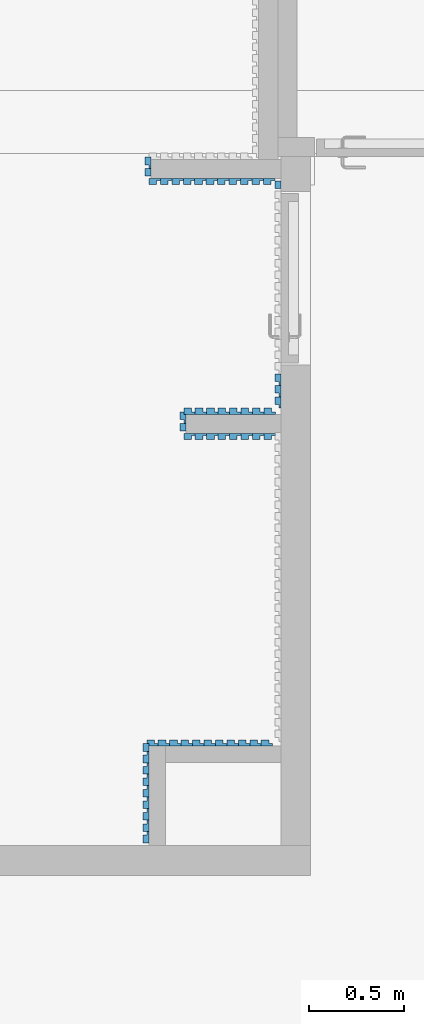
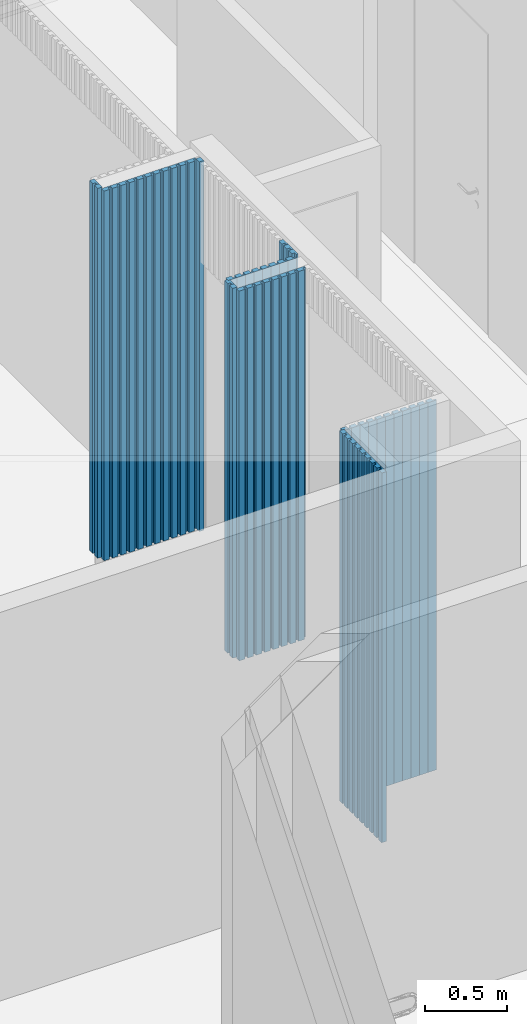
# One storey, part 11 of 37: 55 plates, 8 elements without a shape of their own.
"""IFC2X3 building model written with IfcOpenShell, lengths in millimetres."""

from ifc_helpers import new_model, entity, si_unit, converted_unit, derived_unit, direction, frame, frame_2d, origin, origin_with_axes, place, context, subcontext, project, spatial, rectangle, extrude, source, transform, mapped, material, material_list, type_object, element, aggregate, save


model = new_model("IFC2X3")

# Units and contexts
model_context = context("Model", 3, precision=0.01, world=frame((0.0, 4.29681676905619e-09, 0.0)), true_north=direction((4.01073788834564e-13, 1.0)))
plan_context = context("Plan", 3, precision=0.01, world=frame((0.0, 4.29681676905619e-09, 0.0)), true_north=direction((4.01073788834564e-13, 1.0)))
body_context = subcontext(model_context, "Body", "Model", "MODEL_VIEW")
ifc_project = project(units=[converted_unit("PLANEANGLEUNIT", "DEGREE", entity("IfcPositiveLengthMeasure", 0.0174532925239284), si_unit("PLANEANGLEUNIT", "RADIAN"), dimensions=[0, 0, 0, 0, 0, 0, 0]), si_unit("AREAUNIT", "SQUARE_METRE"), si_unit("LENGTHUNIT", "METRE", prefix="MILLI"), si_unit("MASSUNIT", "GRAM", prefix="KILO"), si_unit("POWERUNIT", "WATT"), si_unit("PRESSUREUNIT", "PASCAL"), si_unit("FORCEUNIT", "NEWTON", prefix="KILO"), si_unit("ELECTRICVOLTAGEUNIT", "VOLT"), si_unit("ELECTRICCURRENTUNIT", "AMPERE"), si_unit("THERMODYNAMICTEMPERATUREUNIT", "DEGREE_CELSIUS"), si_unit("TIMEUNIT", "SECOND"), si_unit("VOLUMEUNIT", "CUBIC_METRE"), derived_unit("LINEARVELOCITYUNIT", [(si_unit("LENGTHUNIT", "METRE"), 1), (si_unit("TIMEUNIT", "SECOND"), -1)]), derived_unit("VOLUMETRICFLOWRATEUNIT", [(si_unit("VOLUMEUNIT", "CUBIC_METRE"), 1), (si_unit("TIMEUNIT", "SECOND"), -1)]), derived_unit("THERMALTRANSMITTANCEUNIT", [(si_unit("POWERUNIT", "WATT"), 1), (si_unit("THERMODYNAMICTEMPERATUREUNIT", "KELVIN"), -1), (si_unit("AREAUNIT", "SQUARE_METRE"), -1)]), derived_unit("SOUNDPRESSUREUNIT", [(si_unit("PRESSUREUNIT", "PASCAL"), 1)])], contexts=[model_context, plan_context])

# Site, building, storey
site_placement = place(None, origin_with_axes())
site = spatial("IfcSite", under=ifc_project, at=site_placement, Name="ENGM", CompositionType="ELEMENT")
building_placement = place(site_placement, origin_with_axes())
building = spatial("IfcBuilding", under=site, at=building_placement, Name="TS", CompositionType="ELEMENT")
storey_placement = place(building_placement, frame((0.0, 0.0, 210900.0), z_axis=(0.0, 0.0, 1.0), x_axis=(1.0, 0.0, 0.0)))
storey = spatial("IfcBuildingStorey", under=building, at=storey_placement, Name="Nivå F", CompositionType="ELEMENT", Elevation=210900.0)

# Curtain wall, plate
curtain_wall_type = type_object("IfcCurtainWallType", PredefinedType="NOTDEFINED")
curtain_wall_1_placement = place(storey_placement, frame((0.0, 0.0, -210900.0), z_axis=(0.0, 0.0, 1.0), x_axis=(1.0, 0.0, 0.0)))
curtain_wall_1 = element("IfcCurtainWall", 1, at=curtain_wall_1_placement, inside=storey, type_object=curtain_wall_type)
ifc_material_1 = material(Name="MDF plate svart")
ifc_material_2 = material(Name="Wood")
ifc_material_list = material_list([ifc_material_1, ifc_material_2])
plate_type_1 = type_object("IfcPlateType", Name="Spiler_40 x 20:Spiler_40 x 20", PredefinedType="CURTAIN_PANEL", material=ifc_material_list)
shared_shape_1 = source(origin(), body_context, "Body", "SweptSolid", [
    extrude(rectangle(XDim=60.0, YDim=12.0, at=frame_2d((3.5527136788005e-15, 1.33226762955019e-15), x_axis=(1.0, 0.0))), frame((-10.0, 6.0, 0.0), z_axis=(0.0, 0.0, 1.0), x_axis=(-1.0, 0.0, 0.0)), (0.0, 0.0, 1.0), 2760.0),
    extrude(rectangle(XDim=20.0000000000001, YDim=39.9999999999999, at=frame_2d((0.0, 8.88178419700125e-15), x_axis=(1.0, 0.0))), frame((0.0, 22.0, 0.0), z_axis=(0.0, 0.0, 1.0), x_axis=(0.0, 1.0, 0.0)), (0.0, 0.0, 1.0), 2760.0),
])
plate_1_placement = place(curtain_wall_1_placement, frame((532901.873960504, 448052.846287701, 211000.0), z_axis=(0.0, 0.0, 1.0), x_axis=(0.0, 1.0, 0.0)))
plate_1 = element("IfcPlate", 2, at=plate_1_placement, type_object=plate_type_1, material=ifc_material_list, Name="Spiler_40 x 20:Spiler_40 x 20", ObjectType="Spiler_40 x 20:Spiler_40 x 20", context=body_context, shape_type="MappedRepresentation", body=[
    mapped(shared_shape_1, transform((0.0, 0.0, 0.0), scale=1.0)),
])

# Curtain wall, plates
curtain_wall_2_placement = place(storey_placement, frame((0.0, 0.0, -210900.0), z_axis=(0.0, 0.0, 1.0), x_axis=(1.0, 0.0, 0.0)))
curtain_wall_2 = element("IfcCurtainWall", 3, at=curtain_wall_2_placement, inside=storey, type_object=curtain_wall_type)
plate_type_2 = type_object("IfcPlateType", Name="Spiler_40 x 20:Spiler_40 x 20", PredefinedType="CURTAIN_PANEL", material=ifc_material_list)
plate_2_placement = place(curtain_wall_2_placement, frame((533509.873960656, 447961.346287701, 211000.0), z_axis=(0.0, 0.0, 1.0), x_axis=(-1.0, 0.0, 0.0)))
plate_2 = element("IfcPlate", 4, at=plate_2_placement, type_object=plate_type_2, material=ifc_material_list, Name="Spiler_40 x 20:Spiler_40 x 20", ObjectType="Spiler_40 x 20:Spiler_40 x 20", context=body_context, shape_type="MappedRepresentation", body=[
    mapped(shared_shape_1, transform((0.0, 0.0, 0.0), scale=1.0)),
])
plate_type_3 = type_object("IfcPlateType", Name="Spiler_40 x 20:Spiler_40 x 20", PredefinedType="CURTAIN_PANEL", material=ifc_material_list)
plate_3_placement = place(curtain_wall_2_placement, frame((533449.873960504, 447961.346287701, 211000.0), z_axis=(0.0, 0.0, 1.0), x_axis=(-1.0, 0.0, 0.0)))
plate_3 = element("IfcPlate", 5, at=plate_3_placement, type_object=plate_type_3, material=ifc_material_list, Name="Spiler_40 x 20:Spiler_40 x 20", ObjectType="Spiler_40 x 20:Spiler_40 x 20", context=body_context, shape_type="MappedRepresentation", body=[
    mapped(shared_shape_1, transform((0.0, 0.0, 0.0), scale=1.0)),
])
plate_4_placement = place(curtain_wall_2_placement, frame((533389.873960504, 447961.346287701, 211000.0), z_axis=(0.0, 0.0, 1.0), x_axis=(-1.0, 0.0, 0.0)))
plate_4 = element("IfcPlate", 6, at=plate_4_placement, type_object=plate_type_3, material=ifc_material_list, Name="Spiler_40 x 20:Spiler_40 x 20", ObjectType="Spiler_40 x 20:Spiler_40 x 20", context=body_context, shape_type="MappedRepresentation", body=[
    mapped(shared_shape_1, transform((0.0, 0.0, 0.0), scale=1.0)),
])
plate_5_placement = place(curtain_wall_2_placement, frame((533329.873960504, 447961.346287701, 211000.0), z_axis=(0.0, 0.0, 1.0), x_axis=(-1.0, 0.0, 0.0)))
plate_5 = element("IfcPlate", 7, at=plate_5_placement, type_object=plate_type_3, material=ifc_material_list, Name="Spiler_40 x 20:Spiler_40 x 20", ObjectType="Spiler_40 x 20:Spiler_40 x 20", context=body_context, shape_type="MappedRepresentation", body=[
    mapped(shared_shape_1, transform((0.0, 0.0, 0.0), scale=1.0)),
])
plate_6_placement = place(curtain_wall_2_placement, frame((533269.873960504, 447961.346287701, 211000.0), z_axis=(0.0, 0.0, 1.0), x_axis=(-1.0, 0.0, 0.0)))
plate_6 = element("IfcPlate", 8, at=plate_6_placement, type_object=plate_type_3, material=ifc_material_list, Name="Spiler_40 x 20:Spiler_40 x 20", ObjectType="Spiler_40 x 20:Spiler_40 x 20", context=body_context, shape_type="MappedRepresentation", body=[
    mapped(shared_shape_1, transform((0.0, 0.0, 0.0), scale=1.0)),
])
plate_7_placement = place(curtain_wall_2_placement, frame((533209.873960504, 447961.346287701, 211000.0), z_axis=(0.0, 0.0, 1.0), x_axis=(-1.0, 0.0, 0.0)))
plate_7 = element("IfcPlate", 9, at=plate_7_placement, type_object=plate_type_3, material=ifc_material_list, Name="Spiler_40 x 20:Spiler_40 x 20", ObjectType="Spiler_40 x 20:Spiler_40 x 20", context=body_context, shape_type="MappedRepresentation", body=[
    mapped(shared_shape_1, transform((0.0, 0.0, 0.0), scale=1.0)),
])
plate_8_placement = place(curtain_wall_2_placement, frame((533149.873960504, 447961.346287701, 211000.0), z_axis=(0.0, 0.0, 1.0), x_axis=(-1.0, 0.0, 0.0)))
plate_8 = element("IfcPlate", 10, at=plate_8_placement, type_object=plate_type_3, material=ifc_material_list, Name="Spiler_40 x 20:Spiler_40 x 20", ObjectType="Spiler_40 x 20:Spiler_40 x 20", context=body_context, shape_type="MappedRepresentation", body=[
    mapped(shared_shape_1, transform((0.0, 0.0, 0.0), scale=1.0)),
])
plate_9_placement = place(curtain_wall_2_placement, frame((533089.873960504, 447961.346287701, 211000.0), z_axis=(0.0, 0.0, 1.0), x_axis=(-1.0, 0.0, 0.0)))
plate_9 = element("IfcPlate", 11, at=plate_9_placement, type_object=plate_type_3, material=ifc_material_list, Name="Spiler_40 x 20:Spiler_40 x 20", ObjectType="Spiler_40 x 20:Spiler_40 x 20", context=body_context, shape_type="MappedRepresentation", body=[
    mapped(shared_shape_1, transform((0.0, 0.0, 0.0), scale=1.0)),
])
plate_10_placement = place(curtain_wall_2_placement, frame((533029.873960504, 447961.346287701, 211000.0), z_axis=(0.0, 0.0, 1.0), x_axis=(-1.0, 0.0, 0.0)))
plate_10 = element("IfcPlate", 12, at=plate_10_placement, type_object=plate_type_3, material=ifc_material_list, Name="Spiler_40 x 20:Spiler_40 x 20", ObjectType="Spiler_40 x 20:Spiler_40 x 20", context=body_context, shape_type="MappedRepresentation", body=[
    mapped(shared_shape_1, transform((0.0, 0.0, 0.0), scale=1.0)),
])
plate_11_placement = place(curtain_wall_2_placement, frame((532969.873960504, 447961.346287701, 211000.0), z_axis=(0.0, 0.0, 1.0), x_axis=(-1.0, 0.0, 0.0)))
plate_11 = element("IfcPlate", 13, at=plate_11_placement, type_object=plate_type_3, material=ifc_material_list, Name="Spiler_40 x 20:Spiler_40 x 20", ObjectType="Spiler_40 x 20:Spiler_40 x 20", context=body_context, shape_type="MappedRepresentation", body=[
    mapped(shared_shape_1, transform((0.0, 0.0, 0.0), scale=1.0)),
])
plate_12_placement = place(curtain_wall_2_placement, frame((532909.873960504, 447961.346287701, 211000.0), z_axis=(0.0, 0.0, 1.0), x_axis=(-1.0, 0.0, 0.0)))
plate_12 = element("IfcPlate", 14, at=plate_12_placement, type_object=plate_type_3, material=ifc_material_list, Name="Spiler_40 x 20:Spiler_40 x 20", ObjectType="Spiler_40 x 20:Spiler_40 x 20", context=body_context, shape_type="MappedRepresentation", body=[
    mapped(shared_shape_1, transform((0.0, 0.0, 0.0), scale=1.0)),
])
aggregate(curtain_wall_2, [plate_2, plate_3, plate_4, plate_5, plate_6, plate_7, plate_8, plate_9, plate_10, plate_11, plate_12])

curtain_wall_3_placement = place(storey_placement, frame((0.0, 0.0, -210900.0), z_axis=(0.0, 0.0, 1.0), x_axis=(1.0, 0.0, 0.0)))
curtain_wall_3 = element("IfcCurtainWall", 15, at=curtain_wall_3_placement, inside=storey, type_object=curtain_wall_type)
plate_13_placement = place(curtain_wall_3_placement, frame((533512.53749998, 446624.499999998, 211000.0), z_axis=(0.0, 0.0, 1.0), x_axis=(-1.0, 0.0, 0.0)))
plate_13 = element("IfcPlate", 16, at=plate_13_placement, type_object=plate_type_2, material=ifc_material_list, Name="Spiler_40 x 20:Spiler_40 x 20", ObjectType="Spiler_40 x 20:Spiler_40 x 20", context=body_context, shape_type="MappedRepresentation", body=[
    mapped(shared_shape_1, transform((0.0, 0.0, 0.0), scale=1.0)),
])
plate_14_placement = place(curtain_wall_3_placement, frame((533452.537499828, 446624.499999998, 211000.0), z_axis=(0.0, 0.0, 1.0), x_axis=(-1.0, 0.0, 0.0)))
plate_14 = element("IfcPlate", 17, at=plate_14_placement, type_object=plate_type_3, material=ifc_material_list, Name="Spiler_40 x 20:Spiler_40 x 20", ObjectType="Spiler_40 x 20:Spiler_40 x 20", context=body_context, shape_type="MappedRepresentation", body=[
    mapped(shared_shape_1, transform((0.0, 0.0, 0.0), scale=1.0)),
])
plate_15_placement = place(curtain_wall_3_placement, frame((533392.537499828, 446624.499999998, 211000.0), z_axis=(0.0, 0.0, 1.0), x_axis=(-1.0, 0.0, 0.0)))
plate_15 = element("IfcPlate", 18, at=plate_15_placement, type_object=plate_type_3, material=ifc_material_list, Name="Spiler_40 x 20:Spiler_40 x 20", ObjectType="Spiler_40 x 20:Spiler_40 x 20", context=body_context, shape_type="MappedRepresentation", body=[
    mapped(shared_shape_1, transform((0.0, 0.0, 0.0), scale=1.0)),
])
plate_16_placement = place(curtain_wall_3_placement, frame((533332.537499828, 446624.499999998, 211000.0), z_axis=(0.0, 0.0, 1.0), x_axis=(-1.0, 0.0, 0.0)))
plate_16 = element("IfcPlate", 19, at=plate_16_placement, type_object=plate_type_3, material=ifc_material_list, Name="Spiler_40 x 20:Spiler_40 x 20", ObjectType="Spiler_40 x 20:Spiler_40 x 20", context=body_context, shape_type="MappedRepresentation", body=[
    mapped(shared_shape_1, transform((0.0, 0.0, 0.0), scale=1.0)),
])
plate_17_placement = place(curtain_wall_3_placement, frame((533272.537499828, 446624.499999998, 211000.0), z_axis=(0.0, 0.0, 1.0), x_axis=(-1.0, 0.0, 0.0)))
plate_17 = element("IfcPlate", 20, at=plate_17_placement, type_object=plate_type_3, material=ifc_material_list, Name="Spiler_40 x 20:Spiler_40 x 20", ObjectType="Spiler_40 x 20:Spiler_40 x 20", context=body_context, shape_type="MappedRepresentation", body=[
    mapped(shared_shape_1, transform((0.0, 0.0, 0.0), scale=1.0)),
])
plate_18_placement = place(curtain_wall_3_placement, frame((533212.537499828, 446624.499999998, 211000.0), z_axis=(0.0, 0.0, 1.0), x_axis=(-1.0, 0.0, 0.0)))
plate_18 = element("IfcPlate", 21, at=plate_18_placement, type_object=plate_type_3, material=ifc_material_list, Name="Spiler_40 x 20:Spiler_40 x 20", ObjectType="Spiler_40 x 20:Spiler_40 x 20", context=body_context, shape_type="MappedRepresentation", body=[
    mapped(shared_shape_1, transform((0.0, 0.0, 0.0), scale=1.0)),
])
plate_19_placement = place(curtain_wall_3_placement, frame((533152.537499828, 446624.499999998, 211000.0), z_axis=(0.0, 0.0, 1.0), x_axis=(-1.0, 0.0, 0.0)))
plate_19 = element("IfcPlate", 22, at=plate_19_placement, type_object=plate_type_3, material=ifc_material_list, Name="Spiler_40 x 20:Spiler_40 x 20", ObjectType="Spiler_40 x 20:Spiler_40 x 20", context=body_context, shape_type="MappedRepresentation", body=[
    mapped(shared_shape_1, transform((0.0, 0.0, 0.0), scale=1.0)),
])
plate_20_placement = place(curtain_wall_3_placement, frame((533092.53749998, 446624.499999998, 211000.0), z_axis=(0.0, 0.0, 1.0), x_axis=(-1.0, 0.0, 0.0)))
plate_20 = element("IfcPlate", 23, at=plate_20_placement, type_object=plate_type_1, material=ifc_material_list, Name="Spiler_40 x 20:Spiler_40 x 20", ObjectType="Spiler_40 x 20:Spiler_40 x 20", context=body_context, shape_type="MappedRepresentation", body=[
    mapped(shared_shape_1, transform((0.0, 0.0, 0.0), scale=1.0)),
])
aggregate(curtain_wall_3, [plate_13, plate_14, plate_15, plate_16, plate_17, plate_18, plate_19, plate_20])

# Curtain wall, plate
curtain_wall_4_placement = place(storey_placement, frame((0.0, 0.0, -210900.0), z_axis=(0.0, 0.0, 1.0), x_axis=(1.0, 0.0, 0.0)))
curtain_wall_4 = element("IfcCurtainWall", 24, at=curtain_wall_4_placement, inside=storey, type_object=curtain_wall_type)
plate_21_placement = place(curtain_wall_4_placement, frame((533084.53749998, 446717.499999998, 211000.0), z_axis=(0.0, 0.0, 1.0), x_axis=(0.0, 1.0, 0.0)))
plate_21 = element("IfcPlate", 25, at=plate_21_placement, type_object=plate_type_1, material=ifc_material_list, Name="Spiler_40 x 20:Spiler_40 x 20", ObjectType="Spiler_40 x 20:Spiler_40 x 20", context=body_context, shape_type="MappedRepresentation", body=[
    mapped(shared_shape_1, transform((0.0, 0.0, 0.0), scale=1.0)),
])

# Curtain wall, plates
curtain_wall_5_placement = place(storey_placement, frame((0.0, 0.0, -210900.0), z_axis=(0.0, 0.0, 1.0), x_axis=(1.0, 0.0, 0.0)))
curtain_wall_5 = element("IfcCurtainWall", 26, at=curtain_wall_5_placement, inside=storey, type_object=curtain_wall_type)
plate_22_placement = place(curtain_wall_5_placement, frame((533582.537499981, 446796.499999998, 211000.0), z_axis=(0.0, 0.0, 1.0), x_axis=(0.0, 1.0, 0.0)))
plate_22 = element("IfcPlate", 27, at=plate_22_placement, type_object=plate_type_2, material=ifc_material_list, Name="Spiler_40 x 20:Spiler_40 x 20", ObjectType="Spiler_40 x 20:Spiler_40 x 20", context=body_context, shape_type="MappedRepresentation", body=[
    mapped(shared_shape_1, transform((0.0, 0.0, 0.0), scale=1.0)),
])
plate_23_placement = place(curtain_wall_5_placement, frame((533582.537499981, 446856.50000015, 211000.0), z_axis=(0.0, 0.0, 1.0), x_axis=(0.0, 1.0, 0.0)))
plate_23 = element("IfcPlate", 28, at=plate_23_placement, type_object=plate_type_3, material=ifc_material_list, Name="Spiler_40 x 20:Spiler_40 x 20", ObjectType="Spiler_40 x 20:Spiler_40 x 20", context=body_context, shape_type="MappedRepresentation", body=[
    mapped(shared_shape_1, transform((0.0, 0.0, 0.0), scale=1.0)),
])
plate_type_4 = type_object("IfcPlateType", Name="Spiler_40 x 20:Spiler_40 x 20", PredefinedType="CURTAIN_PANEL", material=ifc_material_list)
plate_24_placement = place(curtain_wall_5_placement, frame((533582.537499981, 446916.500000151, 211000.0), z_axis=(0.0, 0.0, 1.0), x_axis=(0.0, 1.0, 0.0)))
plate_24 = element("IfcPlate", 29, at=plate_24_placement, type_object=plate_type_4, material=ifc_material_list, Name="Spiler_40 x 20:Spiler_40 x 20", ObjectType="Spiler_40 x 20:Spiler_40 x 20", context=body_context, shape_type="MappedRepresentation", body=[
    mapped(shared_shape_1, transform((0.0, 0.0, 0.0), scale=1.0)),
])

curtain_wall_6_placement = place(storey_placement, frame((0.0, 0.0, -210900.0), z_axis=(0.0, 0.0, 1.0), x_axis=(1.0, 0.0, 0.0)))
curtain_wall_6 = element("IfcCurtainWall", 30, at=curtain_wall_6_placement, inside=storey, type_object=curtain_wall_type)
plate_type_5 = type_object("IfcPlateType", Name="Spiler_40 x 20:Spiler_40 x 20", PredefinedType="CURTAIN_PANEL", material=ifc_material_list)
shared_shape_2 = source(origin(), body_context, "Body", "SweptSolid", [
    extrude(rectangle(XDim=12.0, YDim=60.0, at=frame_2d((-2.22044604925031e-15, 3.5527136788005e-15), x_axis=(1.0, 0.0))), frame((-10.0, -6.0, 0.0), z_axis=(0.0, 0.0, 1.0), x_axis=(0.0, 1.0, 0.0)), (0.0, 0.0, 1.0), 2760.0),
    extrude(rectangle(XDim=39.9999999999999, YDim=20.0000000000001, at=frame_2d((8.88178419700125e-15, 0.0), x_axis=(1.0, 0.0))), frame((0.0, -22.0, 0.0), z_axis=(0.0, 0.0, 1.0), x_axis=(-1.0, 0.0, 0.0)), (0.0, 0.0, 1.0), 2760.0),
])
plate_25_placement = place(curtain_wall_6_placement, frame((533498.518749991, 444985.500000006, 211000.0), z_axis=(0.0, 0.0, 1.0), x_axis=(-1.0, 0.0, 0.0)))
plate_25 = element("IfcPlate", 31, at=plate_25_placement, type_object=plate_type_5, material=ifc_material_list, Name="Spiler_40 x 20:Spiler_40 x 20", ObjectType="Spiler_40 x 20:Spiler_40 x 20", context=body_context, shape_type="MappedRepresentation", body=[
    mapped(shared_shape_2, transform((0.0, 0.0, 0.0), scale=1.0)),
])
plate_type_6 = type_object("IfcPlateType", Name="Spiler_40 x 20:Spiler_40 x 20", PredefinedType="CURTAIN_PANEL", material=ifc_material_list)
plate_26_placement = place(curtain_wall_6_placement, frame((533438.518749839, 444985.500000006, 211000.0), z_axis=(0.0, 0.0, 1.0), x_axis=(-1.0, 0.0, 0.0)))
plate_26 = element("IfcPlate", 32, at=plate_26_placement, type_object=plate_type_6, material=ifc_material_list, Name="Spiler_40 x 20:Spiler_40 x 20", ObjectType="Spiler_40 x 20:Spiler_40 x 20", context=body_context, shape_type="MappedRepresentation", body=[
    mapped(shared_shape_2, transform((0.0, 0.0, 0.0), scale=1.0)),
])
plate_27_placement = place(curtain_wall_6_placement, frame((533378.518749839, 444985.500000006, 211000.0), z_axis=(0.0, 0.0, 1.0), x_axis=(-1.0, 0.0, 0.0)))
plate_27 = element("IfcPlate", 33, at=plate_27_placement, type_object=plate_type_6, material=ifc_material_list, Name="Spiler_40 x 20:Spiler_40 x 20", ObjectType="Spiler_40 x 20:Spiler_40 x 20", context=body_context, shape_type="MappedRepresentation", body=[
    mapped(shared_shape_2, transform((0.0, 0.0, 0.0), scale=1.0)),
])
plate_28_placement = place(curtain_wall_6_placement, frame((533318.518749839, 444985.500000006, 211000.0), z_axis=(0.0, 0.0, 1.0), x_axis=(-1.0, 0.0, 0.0)))
plate_28 = element("IfcPlate", 34, at=plate_28_placement, type_object=plate_type_6, material=ifc_material_list, Name="Spiler_40 x 20:Spiler_40 x 20", ObjectType="Spiler_40 x 20:Spiler_40 x 20", context=body_context, shape_type="MappedRepresentation", body=[
    mapped(shared_shape_2, transform((0.0, 0.0, 0.0), scale=1.0)),
])
plate_29_placement = place(curtain_wall_6_placement, frame((533258.518749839, 444985.500000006, 211000.0), z_axis=(0.0, 0.0, 1.0), x_axis=(-1.0, 0.0, 0.0)))
plate_29 = element("IfcPlate", 35, at=plate_29_placement, type_object=plate_type_6, material=ifc_material_list, Name="Spiler_40 x 20:Spiler_40 x 20", ObjectType="Spiler_40 x 20:Spiler_40 x 20", context=body_context, shape_type="MappedRepresentation", body=[
    mapped(shared_shape_2, transform((0.0, 0.0, 0.0), scale=1.0)),
])
plate_30_placement = place(curtain_wall_6_placement, frame((533198.518749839, 444985.500000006, 211000.0), z_axis=(0.0, 0.0, 1.0), x_axis=(-1.0, 0.0, 0.0)))
plate_30 = element("IfcPlate", 36, at=plate_30_placement, type_object=plate_type_6, material=ifc_material_list, Name="Spiler_40 x 20:Spiler_40 x 20", ObjectType="Spiler_40 x 20:Spiler_40 x 20", context=body_context, shape_type="MappedRepresentation", body=[
    mapped(shared_shape_2, transform((0.0, 0.0, 0.0), scale=1.0)),
])
plate_31_placement = place(curtain_wall_6_placement, frame((533138.518749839, 444985.500000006, 211000.0), z_axis=(0.0, 0.0, 1.0), x_axis=(-1.0, 0.0, 0.0)))
plate_31 = element("IfcPlate", 37, at=plate_31_placement, type_object=plate_type_6, material=ifc_material_list, Name="Spiler_40 x 20:Spiler_40 x 20", ObjectType="Spiler_40 x 20:Spiler_40 x 20", context=body_context, shape_type="MappedRepresentation", body=[
    mapped(shared_shape_2, transform((0.0, 0.0, 0.0), scale=1.0)),
])
plate_32_placement = place(curtain_wall_6_placement, frame((533078.518749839, 444985.500000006, 211000.0), z_axis=(0.0, 0.0, 1.0), x_axis=(-1.0, 0.0, 0.0)))
plate_32 = element("IfcPlate", 38, at=plate_32_placement, type_object=plate_type_6, material=ifc_material_list, Name="Spiler_40 x 20:Spiler_40 x 20", ObjectType="Spiler_40 x 20:Spiler_40 x 20", context=body_context, shape_type="MappedRepresentation", body=[
    mapped(shared_shape_2, transform((0.0, 0.0, 0.0), scale=1.0)),
])
plate_33_placement = place(curtain_wall_6_placement, frame((533018.518749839, 444985.500000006, 211000.0), z_axis=(0.0, 0.0, 1.0), x_axis=(-1.0, 0.0, 0.0)))
plate_33 = element("IfcPlate", 39, at=plate_33_placement, type_object=plate_type_6, material=ifc_material_list, Name="Spiler_40 x 20:Spiler_40 x 20", ObjectType="Spiler_40 x 20:Spiler_40 x 20", context=body_context, shape_type="MappedRepresentation", body=[
    mapped(shared_shape_2, transform((0.0, 0.0, 0.0), scale=1.0)),
])
plate_34_placement = place(curtain_wall_6_placement, frame((532958.518749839, 444985.500000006, 211000.0), z_axis=(0.0, 0.0, 1.0), x_axis=(-1.0, 0.0, 0.0)))
plate_34 = element("IfcPlate", 40, at=plate_34_placement, type_object=plate_type_6, material=ifc_material_list, Name="Spiler_40 x 20:Spiler_40 x 20", ObjectType="Spiler_40 x 20:Spiler_40 x 20", context=body_context, shape_type="MappedRepresentation", body=[
    mapped(shared_shape_2, transform((0.0, 0.0, 0.0), scale=1.0)),
])
plate_type_7 = type_object("IfcPlateType", Name="Spiler_40 x 20:Spiler_40 x 20", PredefinedType="CURTAIN_PANEL", material=ifc_material_list)
plate_35_placement = place(curtain_wall_6_placement, frame((532898.518749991, 444985.500000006, 211000.0), z_axis=(0.0, 0.0, 1.0), x_axis=(-1.0, 0.0, 0.0)))
plate_35 = element("IfcPlate", 41, at=plate_35_placement, type_object=plate_type_7, material=ifc_material_list, Name="Spiler_40 x 20:Spiler_40 x 20", ObjectType="Spiler_40 x 20:Spiler_40 x 20", context=body_context, shape_type="MappedRepresentation", body=[
    mapped(shared_shape_2, transform((0.0, 0.0, 0.0), scale=1.0)),
])
aggregate(curtain_wall_6, [plate_25, plate_26, plate_27, plate_28, plate_29, plate_30, plate_31, plate_32, plate_33, plate_34, plate_35])

curtain_wall_7_placement = place(storey_placement, frame((0.0, 0.0, -210900.0), z_axis=(0.0, 0.0, 1.0), x_axis=(1.0, 0.0, 0.0)))
curtain_wall_7 = element("IfcCurtainWall", 42, at=curtain_wall_7_placement, inside=storey, type_object=curtain_wall_type)
plate_36_placement = place(curtain_wall_7_placement, frame((532890.518749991, 444917.499999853, 211000.0), z_axis=(0.0, 0.0, 1.0), x_axis=(0.0, -1.0, 0.0)))
plate_36 = element("IfcPlate", 43, at=plate_36_placement, type_object=plate_type_6, material=ifc_material_list, Name="Spiler_40 x 20:Spiler_40 x 20", ObjectType="Spiler_40 x 20:Spiler_40 x 20", context=body_context, shape_type="MappedRepresentation", body=[
    mapped(shared_shape_2, transform((0.0, 0.0, 0.0), scale=1.0)),
])
plate_37_placement = place(curtain_wall_7_placement, frame((532890.518749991, 444857.499999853, 211000.0), z_axis=(0.0, 0.0, 1.0), x_axis=(0.0, -1.0, 0.0)))
plate_37 = element("IfcPlate", 44, at=plate_37_placement, type_object=plate_type_6, material=ifc_material_list, Name="Spiler_40 x 20:Spiler_40 x 20", ObjectType="Spiler_40 x 20:Spiler_40 x 20", context=body_context, shape_type="MappedRepresentation", body=[
    mapped(shared_shape_2, transform((0.0, 0.0, 0.0), scale=1.0)),
])
plate_38_placement = place(curtain_wall_7_placement, frame((532890.518749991, 444797.499999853, 211000.0), z_axis=(0.0, 0.0, 1.0), x_axis=(0.0, -1.0, 0.0)))
plate_38 = element("IfcPlate", 45, at=plate_38_placement, type_object=plate_type_6, material=ifc_material_list, Name="Spiler_40 x 20:Spiler_40 x 20", ObjectType="Spiler_40 x 20:Spiler_40 x 20", context=body_context, shape_type="MappedRepresentation", body=[
    mapped(shared_shape_2, transform((0.0, 0.0, 0.0), scale=1.0)),
])
plate_39_placement = place(curtain_wall_7_placement, frame((532890.518749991, 444737.499999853, 211000.0), z_axis=(0.0, 0.0, 1.0), x_axis=(0.0, -1.0, 0.0)))
plate_39 = element("IfcPlate", 46, at=plate_39_placement, type_object=plate_type_6, material=ifc_material_list, Name="Spiler_40 x 20:Spiler_40 x 20", ObjectType="Spiler_40 x 20:Spiler_40 x 20", context=body_context, shape_type="MappedRepresentation", body=[
    mapped(shared_shape_2, transform((0.0, 0.0, 0.0), scale=1.0)),
])
plate_40_placement = place(curtain_wall_7_placement, frame((532890.518749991, 444677.499999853, 211000.0), z_axis=(0.0, 0.0, 1.0), x_axis=(0.0, -1.0, 0.0)))
plate_40 = element("IfcPlate", 47, at=plate_40_placement, type_object=plate_type_6, material=ifc_material_list, Name="Spiler_40 x 20:Spiler_40 x 20", ObjectType="Spiler_40 x 20:Spiler_40 x 20", context=body_context, shape_type="MappedRepresentation", body=[
    mapped(shared_shape_2, transform((0.0, 0.0, 0.0), scale=1.0)),
])
plate_41_placement = place(curtain_wall_7_placement, frame((532890.518749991, 444617.499999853, 211000.0), z_axis=(0.0, 0.0, 1.0), x_axis=(0.0, -1.0, 0.0)))
plate_41 = element("IfcPlate", 48, at=plate_41_placement, type_object=plate_type_6, material=ifc_material_list, Name="Spiler_40 x 20:Spiler_40 x 20", ObjectType="Spiler_40 x 20:Spiler_40 x 20", context=body_context, shape_type="MappedRepresentation", body=[
    mapped(shared_shape_2, transform((0.0, 0.0, 0.0), scale=1.0)),
])
plate_42_placement = place(curtain_wall_7_placement, frame((532890.518749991, 444557.499999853, 211000.0), z_axis=(0.0, 0.0, 1.0), x_axis=(0.0, -1.0, 0.0)))
plate_42 = element("IfcPlate", 49, at=plate_42_placement, type_object=plate_type_6, material=ifc_material_list, Name="Spiler_40 x 20:Spiler_40 x 20", ObjectType="Spiler_40 x 20:Spiler_40 x 20", context=body_context, shape_type="MappedRepresentation", body=[
    mapped(shared_shape_2, transform((0.0, 0.0, 0.0), scale=1.0)),
])
plate_43_placement = place(curtain_wall_7_placement, frame((532890.518749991, 444497.500000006, 211000.0), z_axis=(0.0, 0.0, 1.0), x_axis=(0.0, -1.0, 0.0)))
plate_43 = element("IfcPlate", 50, at=plate_43_placement, type_object=plate_type_7, material=ifc_material_list, Name="Spiler_40 x 20:Spiler_40 x 20", ObjectType="Spiler_40 x 20:Spiler_40 x 20", context=body_context, shape_type="MappedRepresentation", body=[
    mapped(shared_shape_2, transform((0.0, 0.0, 0.0), scale=1.0)),
])

curtain_wall_8_placement = place(storey_placement, frame((0.0, 0.0, -210900.0), z_axis=(0.0, 0.0, 1.0), x_axis=(1.0, 0.0, 0.0)))
curtain_wall_8 = element("IfcCurtainWall", 51, at=curtain_wall_8_placement, inside=storey, type_object=curtain_wall_type)
plate_44_placement = place(curtain_wall_8_placement, frame((533512.53749998, 446724.499999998, 211000.0), z_axis=(0.0, 0.0, 1.0), x_axis=(-1.0, 0.0, 0.0)))
plate_44 = element("IfcPlate", 52, at=plate_44_placement, type_object=plate_type_5, material=ifc_material_list, Name="Spiler_40 x 20:Spiler_40 x 20", ObjectType="Spiler_40 x 20:Spiler_40 x 20", context=body_context, shape_type="MappedRepresentation", body=[
    mapped(shared_shape_2, transform((0.0, 0.0, 0.0), scale=1.0)),
])
plate_45_placement = place(curtain_wall_8_placement, frame((533452.537499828, 446724.499999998, 211000.0), z_axis=(0.0, 0.0, 1.0), x_axis=(-1.0, 0.0, 0.0)))
plate_45 = element("IfcPlate", 53, at=plate_45_placement, type_object=plate_type_6, material=ifc_material_list, Name="Spiler_40 x 20:Spiler_40 x 20", ObjectType="Spiler_40 x 20:Spiler_40 x 20", context=body_context, shape_type="MappedRepresentation", body=[
    mapped(shared_shape_2, transform((0.0, 0.0, 0.0), scale=1.0)),
])
plate_46_placement = place(curtain_wall_8_placement, frame((533392.537499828, 446724.499999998, 211000.0), z_axis=(0.0, 0.0, 1.0), x_axis=(-1.0, 0.0, 0.0)))
plate_46 = element("IfcPlate", 54, at=plate_46_placement, type_object=plate_type_6, material=ifc_material_list, Name="Spiler_40 x 20:Spiler_40 x 20", ObjectType="Spiler_40 x 20:Spiler_40 x 20", context=body_context, shape_type="MappedRepresentation", body=[
    mapped(shared_shape_2, transform((0.0, 0.0, 0.0), scale=1.0)),
])
plate_47_placement = place(curtain_wall_8_placement, frame((533332.537499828, 446724.499999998, 211000.0), z_axis=(0.0, 0.0, 1.0), x_axis=(-1.0, 0.0, 0.0)))
plate_47 = element("IfcPlate", 55, at=plate_47_placement, type_object=plate_type_6, material=ifc_material_list, Name="Spiler_40 x 20:Spiler_40 x 20", ObjectType="Spiler_40 x 20:Spiler_40 x 20", context=body_context, shape_type="MappedRepresentation", body=[
    mapped(shared_shape_2, transform((0.0, 0.0, 0.0), scale=1.0)),
])
plate_48_placement = place(curtain_wall_8_placement, frame((533272.537499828, 446724.499999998, 211000.0), z_axis=(0.0, 0.0, 1.0), x_axis=(-1.0, 0.0, 0.0)))
plate_48 = element("IfcPlate", 56, at=plate_48_placement, type_object=plate_type_6, material=ifc_material_list, Name="Spiler_40 x 20:Spiler_40 x 20", ObjectType="Spiler_40 x 20:Spiler_40 x 20", context=body_context, shape_type="MappedRepresentation", body=[
    mapped(shared_shape_2, transform((0.0, 0.0, 0.0), scale=1.0)),
])
plate_49_placement = place(curtain_wall_8_placement, frame((533212.537499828, 446724.499999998, 211000.0), z_axis=(0.0, 0.0, 1.0), x_axis=(-1.0, 0.0, 0.0)))
plate_49 = element("IfcPlate", 57, at=plate_49_placement, type_object=plate_type_6, material=ifc_material_list, Name="Spiler_40 x 20:Spiler_40 x 20", ObjectType="Spiler_40 x 20:Spiler_40 x 20", context=body_context, shape_type="MappedRepresentation", body=[
    mapped(shared_shape_2, transform((0.0, 0.0, 0.0), scale=1.0)),
])
plate_50_placement = place(curtain_wall_8_placement, frame((533152.537499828, 446724.499999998, 211000.0), z_axis=(0.0, 0.0, 1.0), x_axis=(-1.0, 0.0, 0.0)))
plate_50 = element("IfcPlate", 58, at=plate_50_placement, type_object=plate_type_6, material=ifc_material_list, Name="Spiler_40 x 20:Spiler_40 x 20", ObjectType="Spiler_40 x 20:Spiler_40 x 20", context=body_context, shape_type="MappedRepresentation", body=[
    mapped(shared_shape_2, transform((0.0, 0.0, 0.0), scale=1.0)),
])
plate_51_placement = place(curtain_wall_8_placement, frame((533092.53749998, 446724.499999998, 211000.0), z_axis=(0.0, 0.0, 1.0), x_axis=(-1.0, 0.0, 0.0)))
plate_51 = element("IfcPlate", 59, at=plate_51_placement, type_object=plate_type_7, material=ifc_material_list, Name="Spiler_40 x 20:Spiler_40 x 20", ObjectType="Spiler_40 x 20:Spiler_40 x 20", context=body_context, shape_type="MappedRepresentation", body=[
    mapped(shared_shape_2, transform((0.0, 0.0, 0.0), scale=1.0)),
])
aggregate(curtain_wall_8, [plate_44, plate_45, plate_46, plate_47, plate_48, plate_49, plate_50, plate_51])

# Plate
plate_type_8 = type_object("IfcPlateType", Name="Spiler_40 x 20_enkel:Spiler_40 x 20_enkel", PredefinedType="CURTAIN_PANEL", material=ifc_material_list)
shared_shape_3 = source(origin(), body_context, "Body", "SweptSolid", [
    extrude(rectangle(XDim=39.9999999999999, YDim=12.0, at=frame_2d((3.5527136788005e-15, 3.10862446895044e-15), x_axis=(1.0, 0.0))), frame((0.0, 6.0, 0.0), z_axis=(0.0, 0.0, 1.0), x_axis=(-1.0, 0.0, 0.0)), (0.0, 0.0, 1.0), 2760.0),
    extrude(rectangle(XDim=20.0000000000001, YDim=39.9999999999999, at=frame_2d((0.0, 8.88178419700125e-15), x_axis=(1.0, 0.0))), frame((0.0, 22.0, 0.0), z_axis=(0.0, 0.0, 1.0), x_axis=(0.0, 1.0, 0.0)), (0.0, 0.0, 1.0), 2760.0),
])
plate_52_placement = place(curtain_wall_1_placement, frame((532901.873960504, 447992.846287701, 211000.0), z_axis=(0.0, 0.0, 1.0), x_axis=(0.0, 1.0, 0.0)))
plate_52 = element("IfcPlate", 60, at=plate_52_placement, type_object=plate_type_8, material=ifc_material_list, Name="Spiler_40 x 20_enkel:Spiler_40 x 20_enkel", ObjectType="Spiler_40 x 20_enkel:Spiler_40 x 20_enkel", context=body_context, shape_type="MappedRepresentation", body=[
    mapped(shared_shape_3, transform((0.0, 0.0, 0.0), scale=1.0)),
])

aggregate(curtain_wall_1, [plate_52, plate_1])

plate_53_placement = place(curtain_wall_4_placement, frame((533084.53749998, 446657.499999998, 211000.0), z_axis=(0.0, 0.0, 1.0), x_axis=(0.0, 1.0, 0.0)))
plate_53 = element("IfcPlate", 61, at=plate_53_placement, type_object=plate_type_8, material=ifc_material_list, Name="Spiler_40 x 20_enkel:Spiler_40 x 20_enkel", ObjectType="Spiler_40 x 20_enkel:Spiler_40 x 20_enkel", context=body_context, shape_type="MappedRepresentation", body=[
    mapped(shared_shape_3, transform((0.0, 0.0, 0.0), scale=1.0)),
])

aggregate(curtain_wall_4, [plate_53, plate_21])

plate_type_9 = type_object("IfcPlateType", Name="Spiler_40 x 20_enkel:Spiler_40 x 20_enkel", PredefinedType="CURTAIN_PANEL", material=ifc_material_list)
plate_54_placement = place(curtain_wall_5_placement, frame((533582.537499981, 447928.173143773, 211000.0), z_axis=(0.0, 0.0, 1.0), x_axis=(0.0, 1.0, 0.0)))
plate_54 = element("IfcPlate", 62, at=plate_54_placement, type_object=plate_type_9, material=ifc_material_list, Name="Spiler_40 x 20_enkel:Spiler_40 x 20_enkel", ObjectType="Spiler_40 x 20_enkel:Spiler_40 x 20_enkel", context=body_context, shape_type="MappedRepresentation", body=[
    mapped(shared_shape_3, transform((0.0, 0.0, 0.0), scale=1.0)),
])

aggregate(curtain_wall_5, [plate_22, plate_23, plate_24, plate_54])

plate_type_10 = type_object("IfcPlateType", Name="Spiler_40 x 20_enkel:Spiler_40 x 20_enkel", PredefinedType="CURTAIN_PANEL", material=ifc_material_list)
shared_shape_4 = source(origin(), body_context, "Body", "SweptSolid", [
    extrude(rectangle(XDim=12.0, YDim=39.9999999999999, at=frame_2d((0.0, 3.5527136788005e-15), x_axis=(1.0, 0.0))), frame((0.0, -6.0, 0.0), z_axis=(0.0, 0.0, 1.0), x_axis=(0.0, 1.0, 0.0)), (0.0, 0.0, 1.0), 2760.0),
    extrude(rectangle(XDim=39.9999999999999, YDim=20.0000000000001, at=frame_2d((8.88178419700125e-15, 0.0), x_axis=(1.0, 0.0))), frame((0.0, -22.0, 0.0), z_axis=(0.0, 0.0, 1.0), x_axis=(-1.0, 0.0, 0.0)), (0.0, 0.0, 1.0), 2760.0),
])
plate_55_placement = place(curtain_wall_7_placement, frame((532890.518749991, 444977.500000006, 211000.0), z_axis=(0.0, 0.0, 1.0), x_axis=(0.0, -1.0, 0.0)))
plate_55 = element("IfcPlate", 63, at=plate_55_placement, type_object=plate_type_10, material=ifc_material_list, Name="Spiler_40 x 20_enkel:Spiler_40 x 20_enkel", ObjectType="Spiler_40 x 20_enkel:Spiler_40 x 20_enkel", context=body_context, shape_type="MappedRepresentation", body=[
    mapped(shared_shape_4, transform((0.0, 0.0, 0.0), scale=1.0)),
])

aggregate(curtain_wall_7, [plate_55, plate_36, plate_37, plate_38, plate_39, plate_40, plate_41, plate_42, plate_43])

save(model, "model.ifc")
